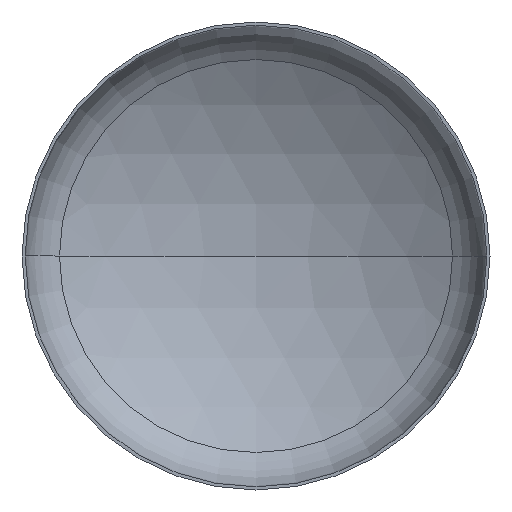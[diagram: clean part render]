
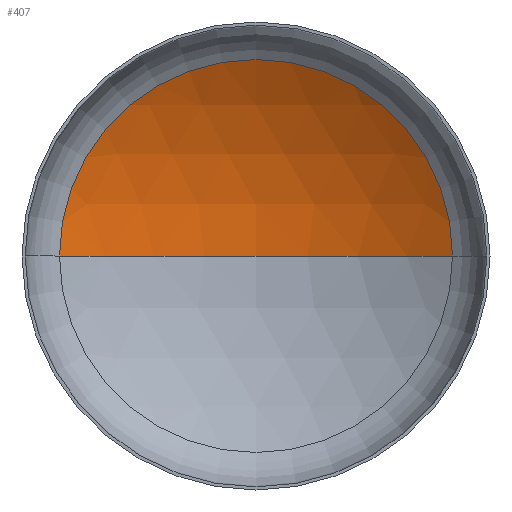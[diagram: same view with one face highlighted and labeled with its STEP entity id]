
A CAD part, front view. The second image highlights one B-rep face of the part: STEP entity #407.
In plain terms, the highlighted spherical face has radius 2720 mm.
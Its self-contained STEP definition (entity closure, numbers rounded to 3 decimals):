
#20 = EDGE_LOOP ( 'NONE', ( #144, #131, #108 ) ) ;
#25 = DIRECTION ( 'NONE',  ( 0., 0., -1. ) ) ;
#37 = VERTEX_POINT ( 'NONE', #297 ) ;
#40 = DIRECTION ( 'NONE',  ( 0., 0., 1. ) ) ;
#41 = AXIS2_PLACEMENT_3D ( 'NONE', #44, #40, #254 ) ;
#43 = AXIS2_PLACEMENT_3D ( 'NONE', #159, #25, #350 ) ;
#44 = CARTESIAN_POINT ( 'NONE',  ( 0., -1798.401, 0. ) ) ;
#45 = AXIS2_PLACEMENT_3D ( 'NONE', #199, #200, #204 ) ;
#51 = VERTEX_POINT ( 'NONE', #373 ) ;
#103 = EDGE_CURVE ( 'NONE', #51, #37, #272, .T. ) ;
#104 = EDGE_CURVE ( 'NONE', #110, #51, #203, .T. ) ;
#105 = EDGE_CURVE ( 'NONE', #110, #37, #388, .T. ) ;
#108 = ORIENTED_EDGE ( 'NONE', *, *, #103, .T. ) ;
#110 = VERTEX_POINT ( 'NONE', #154 ) ;
#131 = ORIENTED_EDGE ( 'NONE', *, *, #104, .T. ) ;
#144 = ORIENTED_EDGE ( 'NONE', *, *, #105, .F. ) ;
#145 = SPHERICAL_SURFACE ( 'NONE', #410, 2720. ) ;
#154 = CARTESIAN_POINT ( 'NONE',  ( 0., 921.599, 0. ) ) ;
#159 = CARTESIAN_POINT ( 'NONE',  ( 0., -1798.401, 0. ) ) ;
#199 = CARTESIAN_POINT ( 'NONE',  ( 0., 516.884, 0. ) ) ;
#200 = DIRECTION ( 'NONE',  ( 0., -1., 0. ) ) ;
#203 = CIRCLE ( 'NONE', #43, 2720. ) ;
#204 = DIRECTION ( 'NONE',  ( 1., 0., 0. ) ) ;
#254 = DIRECTION ( 'NONE',  ( 1., 0., 0. ) ) ;
#272 = CIRCLE ( 'NONE', #45, 1427.535 ) ;
#297 = CARTESIAN_POINT ( 'NONE',  ( -1427.535, 516.884, 0. ) ) ;
#302 = DIRECTION ( 'NONE',  ( -1., 0., 0. ) ) ;
#329 = CARTESIAN_POINT ( 'NONE',  ( 0., -1798.401, 0. ) ) ;
#350 = DIRECTION ( 'NONE',  ( -1., 0., 0. ) ) ;
#360 = DIRECTION ( 'NONE',  ( 0., 0., -1. ) ) ;
#373 = CARTESIAN_POINT ( 'NONE',  ( 1427.535, 516.884, 0. ) ) ;
#388 = CIRCLE ( 'NONE', #41, 2720. ) ;
#400 = FACE_OUTER_BOUND ( 'NONE', #20, .T. ) ;
#407 = ADVANCED_FACE ( 'NONE', ( #400 ), #145, .F. ) ;
#410 = AXIS2_PLACEMENT_3D ( 'NONE', #329, #360, #302 ) ;
